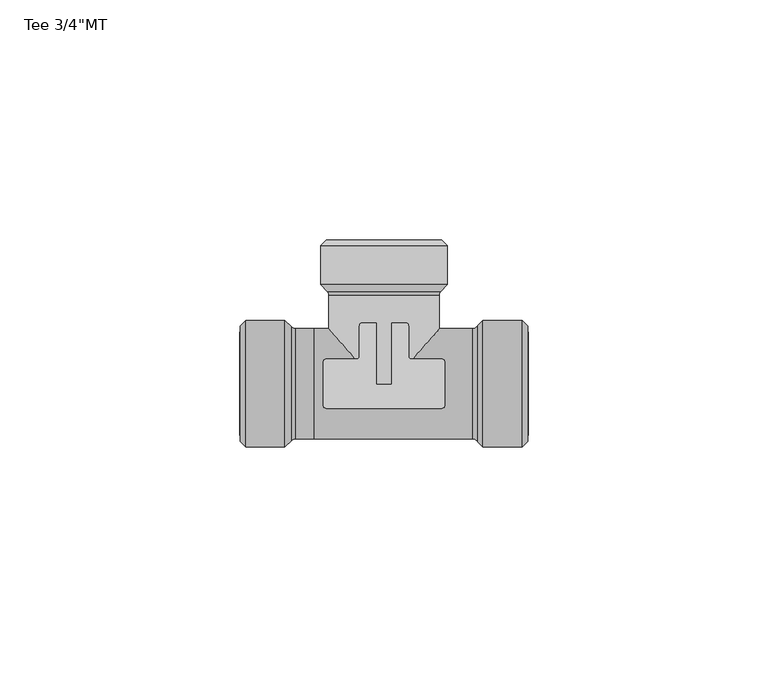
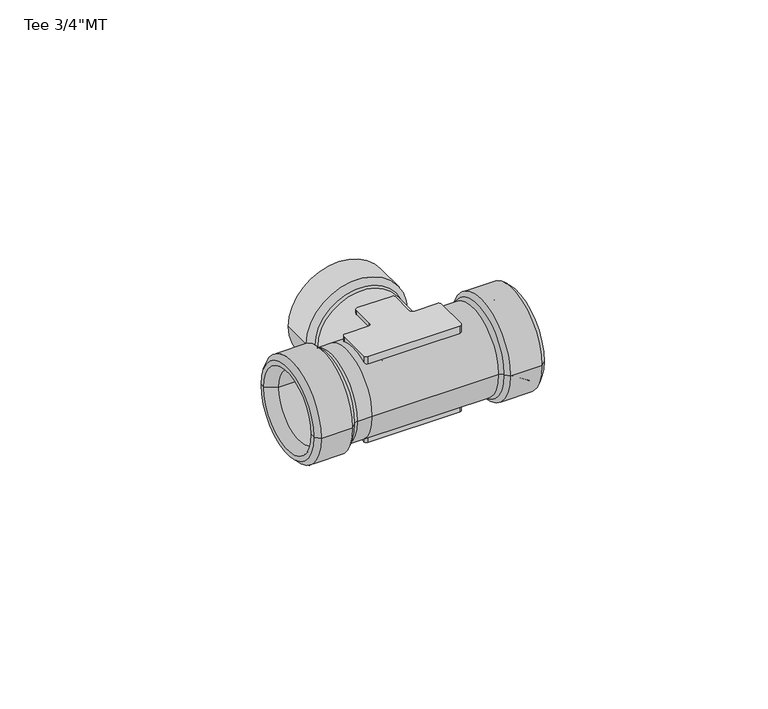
"""IFC4 building model written with IfcOpenShell, lengths in millimetres: pipe fitting geometry."""

from ifc_helpers import new_model, si_unit, point, frame, frame_2d, origin, place, context, project, spatial, polyline, circle_curve, ellipse_curve, trimmed, segment, composite_curve, outline, extrude, source, transform, mapped, element, save
from ifc_brep_helpers import plane_surface, cylinder_surface, revolved_surface, advanced_brep


def pipe_fitting_483da3ce(model_context):
    return source(origin(), model_context, "Body", "SolidModel", [
        advanced_brep(
        [(11.847933, 19.2669661, 0.0), (-11.847933, 19.2669661, 0.0), (-13.2200007, 20.6390338, 0.0), (13.2200007, 20.6390338, 0.0), (11.5000012, 18.5208241, 0.0), (-11.5000012, 18.5208241, 0.0), (11.5000012, 0.0, 0.0), (-11.5000012, 0.0, 0.0), (9.1000005, 27.1421162, 0.0), (-9.1000005, 27.1421162, 0.0), (-9.1000005, 0.0, 0.0), (9.1000005, 0.0, 0.0), (10.6841513, 30.0, 0.0), (-10.6841513, 30.0, 0.0), (12.0200013, 30.0, 0.0), (-12.0200013, 30.0, 0.0), (13.2200007, 28.8000006, 0.0), (-13.2200007, 28.8000006, 0.0)],
        [
            (0, 1, circle_curve(frame((0.0, 19.2669661, 0.0), z_axis=(0.0, 1.0, 0.0), x_axis=(-1.0, 0.0, 0.0)), 11.847933)),
            (1, 2),
            (2, 3, circle_curve(frame((0.0, 20.6390338, 0.0), z_axis=(0.0, -1.0, 0.0), x_axis=(-1.0, 0.0, 0.0)), 13.2200007)),
            (3, 0),
            (1, 0, circle_curve(frame((0.0, 19.2669661, 0.0), z_axis=(0.0, 1.0, 0.0), x_axis=(-1.0, 0.0, 0.0)), 11.847933)),
            (3, 2, circle_curve(frame((0.0, 20.6390338, 0.0), z_axis=(0.0, -1.0, 0.0), x_axis=(-1.0, 0.0, 0.0)), 13.2200007)),
            (4, 5, circle_curve(frame((0.0, 18.5208241, 0.0), z_axis=(0.0, 1.0, 0.0), x_axis=(-1.0, 0.0, 0.0)), 11.5000012)),
            (5, 1, circle_curve(frame((-12.6989712, 18.4159278, 0.0), z_axis=(0.0, 0.0, 1.0), x_axis=(1.0, 0.0, 0.0)), 1.2035499)),
            (0, 4, circle_curve(frame((12.6989712, 18.4159278, 0.0), z_axis=(0.0, 0.0, 1.0), x_axis=(-1.0, 0.0, 0.0)), 1.2035499)),
            (5, 4, circle_curve(frame((0.0, 18.5208241, 0.0), z_axis=(0.0, 1.0, 0.0), x_axis=(-1.0, 0.0, 0.0)), 11.5000012)),
            (6, 7, circle_curve(frame((0.0, 0.0, 0.0), z_axis=(0.0, 1.0, 0.0), x_axis=(-1.0, 0.0, 0.0)), 11.5000012)),
            (7, 5),
            (4, 6),
            (7, 6, circle_curve(frame((0.0, 0.0, 0.0), z_axis=(0.0, 1.0, 0.0), x_axis=(-1.0, 0.0, 0.0)), 11.5000012)),
            (8, 9, circle_curve(frame((0.0, 27.1421162, 0.0), z_axis=(0.0, 1.0, 0.0), x_axis=(-1.0, 0.0, 0.0)), 9.1000005)),
            (9, 10),
            (10, 11, circle_curve(frame((0.0, 0.0, 0.0), z_axis=(0.0, -1.0, 0.0), x_axis=(-1.0, 0.0, 0.0)), 9.1000005)),
            (11, 8),
            (9, 8, circle_curve(frame((0.0, 27.1421162, 0.0), z_axis=(0.0, 1.0, 0.0), x_axis=(-1.0, 0.0, 0.0)), 9.1000005)),
            (11, 10, circle_curve(frame((0.0, 0.0, 0.0), z_axis=(0.0, -1.0, 0.0), x_axis=(-1.0, 0.0, 0.0)), 9.1000005)),
            (12, 13, circle_curve(frame((0.0, 30.0, 0.0), z_axis=(0.0, 1.0, 0.0), x_axis=(-1.0, 0.0, 0.0)), 10.6841513)),
            (13, 9),
            (8, 12),
            (13, 12, circle_curve(frame((0.0, 30.0, 0.0), z_axis=(0.0, 1.0, 0.0), x_axis=(-1.0, 0.0, 0.0)), 10.6841513)),
            (14, 15, circle_curve(frame((0.0, 30.0, 0.0), z_axis=(0.0, 1.0, 0.0), x_axis=(-1.0, 0.0, 0.0)), 12.0200013)),
            (15, 13),
            (12, 14),
            (15, 14, circle_curve(frame((0.0, 30.0, 0.0), z_axis=(0.0, 1.0, 0.0), x_axis=(-1.0, 0.0, 0.0)), 12.0200013)),
            (16, 17, circle_curve(frame((0.0, 28.8000006, 0.0), z_axis=(0.0, 1.0, 0.0), x_axis=(-1.0, 0.0, 0.0)), 13.2200007)),
            (17, 15),
            (14, 16),
            (17, 16, circle_curve(frame((0.0, 28.8000006, 0.0), z_axis=(0.0, 1.0, 0.0), x_axis=(-1.0, 0.0, 0.0)), 13.2200007)),
            (2, 17),
            (16, 3),
            (10, 7),
            (6, 11),
        ],
        [
            revolved_surface(polyline([(-13.2200007, 20.6390338, 0.0), (-11.847933, 19.2669661, 0.0)]), (0.0, 33.9375774, 0.0), (0.0, -1.0, 0.0)),
            revolved_surface(trimmed(ellipse_curve(frame((-12.6989712, 18.4159278, 0.0), z_axis=(0.0, 0.0, -1.0), x_axis=(1.0, 0.0, 0.0)), 1.2035499, 1.2035499), [point((-11.847933, 19.2669661, 0.0))], [point((-11.5000012, 18.5208241, 0.0))], True, "CARTESIAN"), (0.0, 33.9375774, 0.0), (0.0, -1.0, 0.0)),
            cylinder_surface(frame((0.0, 33.9375774, 0.0), z_axis=(0.0, -1.0, 0.0), x_axis=(-1.0, 0.0, 0.0)), 11.5000012),
            revolved_surface(polyline([(-9.1000005, 0.0, 0.0), (-9.1000005, 27.1421162, 0.0)]), (0.0, 33.9375774, 0.0), (0.0, -1.0, 0.0)),
            revolved_surface(polyline([(-9.1000005, 27.1421162, 0.0), (-10.6841513, 30.0, 0.0)]), (0.0, 33.9375774, 0.0), (0.0, -1.0, 0.0)),
            plane_surface(frame((0.0, 30.0, 0.0), z_axis=(0.0, 1.0, 0.0), x_axis=(-1.0, 0.0, 0.0))),
            revolved_surface(polyline([(-12.0200013, 30.0, 0.0), (-13.2200007, 28.8000006, 0.0)]), (0.0, 33.9375774, 0.0), (0.0, -1.0, 0.0)),
            cylinder_surface(frame((0.0, 33.9375774, 0.0), z_axis=(0.0, -1.0, 0.0), x_axis=(-1.0, 0.0, 0.0)), 13.2200007),
            plane_surface(frame((0.0, 0.0, 0.0), z_axis=(0.0, -1.0, 0.0), x_axis=(-1.0, 0.0, 0.0))),
        ],
        [
            (0, [[1, 2, 3, 4]]),
            (0, [[5, -4, 6, -2]]),
            (1, [[7, 8, -1, 9]]),
            (1, [[10, -9, -5, -8]]),
            (2, [[11, 12, -7, 13]]),
            (2, [[14, -13, -10, -12]]),
            (3, [[15, 16, 17, 18]]),
            (3, [[19, -18, 20, -16]]),
            (4, [[21, 22, -15, 23]]),
            (4, [[24, -23, -19, -22]]),
            (5, [[25, 26, -21, 27]]),
            (5, [[28, -27, -24, -26]]),
            (6, [[29, 30, -25, 31]]),
            (6, [[32, -31, -28, -30]]),
            (7, [[-3, 33, -29, 34]]),
            (7, [[-6, -34, -32, -33]]),
            (8, [[-17, 35, -11, 36]]),
            (8, [[-20, -36, -14, -35]]),
        ],
    ),
        extrude(outline(composite_curve([segment(polyline([(-4.4586545, 12.6928765), (4.4586545, 12.6928765)]), True, "CONTINUOUS"), segment(trimmed(circle_curve(frame_2d((4.4586545, 12.0404211)), 0.6524554), [point((4.4586545, 12.6928765))], [point((5.1111099, 12.0404211))], False, "CARTESIAN"), True, "CONTINUOUS"), segment(polyline([(5.1111099, 12.0404211), (5.1111099, 6.4445347)]), True, "CONTINUOUS"), segment(trimmed(circle_curve(frame_2d((11.1699706, 6.1738136)), 6.0649058), [point((5.1111099, 6.4445347))], [point((5.1447536, 5.4811073))], True, "CARTESIAN"), True, "CONTINUOUS"), segment(trimmed(circle_curve(frame_2d((5.8321595, 5.9562127)), 0.8356148), [point((5.1447536, 5.4811073))], [point((5.8518382, 5.1208297))], True, "CARTESIAN"), True, "CONTINUOUS"), segment(polyline([(5.8518382, 5.1208297), (12.0047621, 5.1208297)]), True, "CONTINUOUS"), segment(trimmed(circle_curve(frame_2d((12.0047621, 4.4182248)), 0.7026048), [point((12.0047621, 5.1208297))], [point((12.7073669, 4.4182248))], False, "CARTESIAN"), True, "CONTINUOUS"), segment(polyline([(12.7073669, 4.4182248), (12.7073669, -4.4117644)]), True, "CONTINUOUS"), segment(trimmed(circle_curve(frame_2d((12.0080214, -4.4117644)), 0.6993455), [point((12.7073669, -4.4117644))], [point((12.0080214, -5.1111099))], False, "CARTESIAN"), True, "CONTINUOUS"), segment(polyline([(12.0080214, -5.1111099), (-12.0080214, -5.1111099)]), True, "CONTINUOUS"), segment(trimmed(circle_curve(frame_2d((-12.0080214, -4.4117644)), 0.6993455), [point((-12.0080214, -5.1111099))], [point((-12.7073669, -4.4117644))], False, "CARTESIAN"), True, "CONTINUOUS"), segment(polyline([(-12.7073669, -4.4117644), (-12.7073669, 4.4182248)]), True, "CONTINUOUS"), segment(trimmed(circle_curve(frame_2d((-12.0047621, 4.4182248)), 0.7026048), [point((-12.7073669, 4.4182248))], [point((-12.0047621, 5.1208297))], False, "CARTESIAN"), True, "CONTINUOUS"), segment(polyline([(-12.0047621, 5.1208297), (-5.8518382, 5.1208297)]), True, "CONTINUOUS"), segment(trimmed(circle_curve(frame_2d((-5.8321595, 5.9562127)), 0.8356148), [point((-5.8518382, 5.1208297))], [point((-5.1447536, 5.4811073))], True, "CARTESIAN"), True, "CONTINUOUS"), segment(trimmed(circle_curve(frame_2d((-11.1699706, 6.1738136)), 6.0649058), [point((-5.1447536, 5.4811073))], [point((-5.1111099, 6.4445347))], True, "CARTESIAN"), True, "CONTINUOUS"), segment(polyline([(-5.1111099, 6.4445347), (-5.1111099, 12.0404211)]), True, "CONTINUOUS"), segment(trimmed(circle_curve(frame_2d((-4.4586545, 12.0404211)), 0.6524554), [point((-5.1111099, 12.0404211))], [point((-4.4586545, 12.6928765))], False, "CARTESIAN"), True, "CONTINUOUS")], self_intersect=False)), frame((0.0, 0.0, -11.85), z_axis=(0.0, 0.0, 1.0), x_axis=(1.0, 0.0, 0.0)), (0.0, 0.0, 1.0), 23.7),
        advanced_brep(
        [(-27.1421162, -9.1000005, 0.0), (-27.1421162, 9.1000005, 0.0), (-30.0, 10.7500005, 0.0), (-30.0, -10.7500005, 0.0), (27.1569516, -9.1000005, 0.0), (27.1569516, 9.1000005, 0.0), (30.0, -10.7414352, 0.0), (30.0, 10.7414352, 0.0), (30.0, -12.0200014, 0.0), (30.0, 12.0200014, 0.0), (28.8, -13.2200014, 0.0), (28.8, 13.2200014, 0.0), (20.621596, -13.2200014, 0.0), (20.621596, 13.2200014, 0.0), (19.5705492, -12.1689546, 0.0), (19.5705492, 12.1689546, 0.0), (18.5, -11.5000012, 0.0), (18.5, 11.5000012, 0.0), (-14.5, -11.5000012, 0.0), (-14.5, 11.5000012, 0.0), (-18.3670365, -11.5000012, 0.0), (-18.3670365, 11.5000012, 0.0), (-19.2349171, -11.8158839, 0.0), (-19.2349171, 11.8158839, 0.0), (-20.6390338, -13.2200007, 0.0), (-20.6390338, 13.2200007, 0.0), (-28.7640957, -13.2200007, 0.0), (-28.7640957, 13.2200007, 0.0), (-30.0, -11.9840964, 0.0), (-30.0, 11.9840964, 0.0)],
        [
            (0, 1, circle_curve(frame((-27.1421162, 0.0, 0.0), z_axis=(1.0, 0.0, 0.0), x_axis=(0.0, 1.0, 0.0)), 9.1000005)),
            (1, 2),
            (2, 3, circle_curve(frame((-30.0, 0.0, 0.0), z_axis=(-1.0, 0.0, 0.0), x_axis=(0.0, 1.0, 0.0)), 10.7500005)),
            (3, 0),
            (1, 0, circle_curve(frame((-27.1421162, 0.0, 0.0), z_axis=(1.0, 0.0, 0.0), x_axis=(0.0, 1.0, 0.0)), 9.1000005)),
            (3, 2, circle_curve(frame((-30.0, 0.0, 0.0), z_axis=(-1.0, 0.0, 0.0), x_axis=(0.0, 1.0, 0.0)), 10.7500005)),
            (4, 5, circle_curve(frame((27.1569516, 0.0, 0.0), z_axis=(1.0, 0.0, 0.0), x_axis=(0.0, 1.0, 0.0)), 9.1000005)),
            (5, 1),
            (0, 4),
            (5, 4, circle_curve(frame((27.1569516, 0.0, 0.0), z_axis=(1.0, 0.0, 0.0), x_axis=(0.0, 1.0, 0.0)), 9.1000005)),
            (6, 7, circle_curve(frame((30.0, 0.0, 0.0), z_axis=(1.0, 0.0, 0.0), x_axis=(0.0, 1.0, 0.0)), 10.7414352)),
            (7, 5),
            (4, 6),
            (7, 6, circle_curve(frame((30.0, 0.0, 0.0), z_axis=(1.0, 0.0, 0.0), x_axis=(0.0, 1.0, 0.0)), 10.7414352)),
            (8, 9, circle_curve(frame((30.0, 0.0, 0.0), z_axis=(1.0, 0.0, 0.0), x_axis=(0.0, 1.0, 0.0)), 12.0200014)),
            (9, 7),
            (6, 8),
            (9, 8, circle_curve(frame((30.0, 0.0, 0.0), z_axis=(1.0, 0.0, 0.0), x_axis=(0.0, 1.0, 0.0)), 12.0200014)),
            (10, 11, circle_curve(frame((28.8, 0.0, 0.0), z_axis=(1.0, 0.0, 0.0), x_axis=(0.0, 1.0, 0.0)), 13.2200014)),
            (11, 9),
            (8, 10),
            (11, 10, circle_curve(frame((28.8, 0.0, 0.0), z_axis=(1.0, 0.0, 0.0), x_axis=(0.0, 1.0, 0.0)), 13.2200014)),
            (12, 13, circle_curve(frame((20.621596, 0.0, 0.0), z_axis=(1.0, 0.0, 0.0), x_axis=(0.0, 1.0, 0.0)), 13.2200014)),
            (13, 11),
            (10, 12),
            (13, 12, circle_curve(frame((20.621596, 0.0, 0.0), z_axis=(1.0, 0.0, 0.0), x_axis=(0.0, 1.0, 0.0)), 13.2200014)),
            (14, 15, circle_curve(frame((19.5705492, 0.0, 0.0), z_axis=(1.0, 0.0, 0.0), x_axis=(0.0, 1.0, 0.0)), 12.1689546)),
            (15, 13),
            (12, 14),
            (15, 14, circle_curve(frame((19.5705492, 0.0, 0.0), z_axis=(1.0, 0.0, 0.0), x_axis=(0.0, 1.0, 0.0)), 12.1689546)),
            (16, 17, circle_curve(frame((18.5, 0.0, 0.0), z_axis=(1.0, 0.0, 0.0), x_axis=(0.0, 1.0, 0.0)), 11.5000012)),
            (17, 15, circle_curve(frame((18.2993195, 13.0122523, 0.0), z_axis=(0.0, 0.0, 1.0), x_axis=(1.0, 0.0, 0.0)), 1.5255085)),
            (14, 16, circle_curve(frame((18.2993195, -13.0122523, 0.0), z_axis=(0.0, 0.0, 1.0), x_axis=(1.0, 0.0, 0.0)), 1.5255085)),
            (17, 16, circle_curve(frame((18.5, 0.0, 0.0), z_axis=(1.0, 0.0, 0.0), x_axis=(0.0, 1.0, 0.0)), 11.5000012)),
            (18, 19, circle_curve(frame((-14.5, 0.0, 0.0), z_axis=(1.0, 0.0, 0.0), x_axis=(0.0, 1.0, 0.0)), 11.5000012)),
            (19, 17),
            (16, 18),
            (19, 18, circle_curve(frame((-14.5, 0.0, 0.0), z_axis=(1.0, 0.0, 0.0), x_axis=(0.0, 1.0, 0.0)), 11.5000012)),
            (20, 21, circle_curve(frame((-18.3670365, 0.0, 0.0), z_axis=(1.0, 0.0, 0.0), x_axis=(0.0, 1.0, 0.0)), 11.5000012)),
            (21, 19),
            (18, 20),
            (21, 20, circle_curve(frame((-18.3670365, 0.0, 0.0), z_axis=(1.0, 0.0, 0.0), x_axis=(0.0, 1.0, 0.0)), 11.5000012)),
            (22, 23, circle_curve(frame((-19.2349171, 0.0, 0.0), z_axis=(1.0, 0.0, 0.0), x_axis=(0.0, 1.0, 0.0)), 11.8158839)),
            (23, 21, circle_curve(frame((-18.4622704, 12.5885306, 0.0), z_axis=(0.0, 0.0, 1.0), x_axis=(1.0, 0.0, 0.0)), 1.0926873)),
            (20, 22, circle_curve(frame((-18.4622704, -12.5885306, 0.0), z_axis=(0.0, 0.0, 1.0), x_axis=(1.0, 0.0, 0.0)), 1.0926873)),
            (23, 22, circle_curve(frame((-19.2349171, 0.0, 0.0), z_axis=(1.0, 0.0, 0.0), x_axis=(0.0, 1.0, 0.0)), 11.8158839)),
            (24, 25, circle_curve(frame((-20.6390338, 0.0, 0.0), z_axis=(1.0, 0.0, 0.0), x_axis=(0.0, 1.0, 0.0)), 13.2200007)),
            (25, 23),
            (22, 24),
            (25, 24, circle_curve(frame((-20.6390338, 0.0, 0.0), z_axis=(1.0, 0.0, 0.0), x_axis=(0.0, 1.0, 0.0)), 13.2200007)),
            (26, 27, circle_curve(frame((-28.7640957, 0.0, 0.0), z_axis=(1.0, 0.0, 0.0), x_axis=(0.0, 1.0, 0.0)), 13.2200007)),
            (27, 25),
            (24, 26),
            (27, 26, circle_curve(frame((-28.7640957, 0.0, 0.0), z_axis=(1.0, 0.0, 0.0), x_axis=(0.0, 1.0, 0.0)), 13.2200007)),
            (28, 29, circle_curve(frame((-30.0, 0.0, 0.0), z_axis=(1.0, 0.0, 0.0), x_axis=(0.0, 1.0, 0.0)), 11.9840964)),
            (29, 27),
            (26, 28),
            (29, 28, circle_curve(frame((-30.0, 0.0, 0.0), z_axis=(1.0, 0.0, 0.0), x_axis=(0.0, 1.0, 0.0)), 11.9840964)),
            (2, 29),
            (28, 3),
        ],
        [
            revolved_surface(polyline([(-30.0, 10.7500005, 0.0), (-27.1421162, 9.1000005, 0.0)]), (-39.1874043, 0.0, 0.0), (-1.0, 0.0, 0.0)),
            revolved_surface(polyline([(-27.1421162, 9.1000005, 0.0), (27.1569516, 9.1000005, 0.0)]), (-39.1874043, 0.0, 0.0), (-1.0, 0.0, 0.0)),
            revolved_surface(polyline([(27.1569516, 9.1000005, 0.0), (30.0, 10.7414352, 0.0)]), (-39.1874043, 0.0, 0.0), (-1.0, 0.0, 0.0)),
            plane_surface(frame((30.0, 0.0, 0.0), z_axis=(1.0, 0.0, 0.0), x_axis=(0.0, 1.0, 0.0))),
            revolved_surface(polyline([(30.0, 12.0200014, 0.0), (28.8, 13.2200014, 0.0)]), (-39.1874043, 0.0, 0.0), (-1.0, 0.0, 0.0)),
            cylinder_surface(frame((-39.1874043, 0.0, 0.0), z_axis=(-1.0, 0.0, 0.0), x_axis=(0.0, 1.0, 0.0)), 13.2200014),
            revolved_surface(polyline([(20.621596, 13.2200014, 0.0), (19.5705492, 12.1689546, 0.0)]), (-39.1874043, 0.0, 0.0), (-1.0, 0.0, 0.0)),
            revolved_surface(trimmed(ellipse_curve(frame((18.2993195, 13.0122523, 0.0), z_axis=(0.0, 0.0, -1.0), x_axis=(1.0, 0.0, 0.0)), 1.5255085, 1.5255085), [point((19.5705492, 12.1689546, 0.0))], [point((18.5, 11.5000012, 0.0))], True, "CARTESIAN"), (-39.1874043, 0.0, 0.0), (-1.0, 0.0, 0.0)),
            cylinder_surface(frame((-39.1874043, 0.0, 0.0), z_axis=(-1.0, 0.0, 0.0), x_axis=(0.0, 1.0, 0.0)), 11.5000012),
            revolved_surface(trimmed(ellipse_curve(frame((-18.4622704, 12.5885306, 0.0), z_axis=(0.0, 0.0, -1.0), x_axis=(1.0, 0.0, 0.0)), 1.0926873, 1.0926873), [point((-18.3670365, 11.5000012, 0.0))], [point((-19.2349171, 11.8158839, 0.0))], True, "CARTESIAN"), (-39.1874043, 0.0, 0.0), (-1.0, 0.0, 0.0)),
            revolved_surface(polyline([(-19.2349171, 11.8158839, 0.0), (-20.6390338, 13.2200007, 0.0)]), (-39.1874043, 0.0, 0.0), (-1.0, 0.0, 0.0)),
            cylinder_surface(frame((-39.1874043, 0.0, 0.0), z_axis=(-1.0, 0.0, 0.0), x_axis=(0.0, 1.0, 0.0)), 13.2200007),
            revolved_surface(polyline([(-28.7640957, 13.2200007, 0.0), (-30.0, 11.9840964, 0.0)]), (-39.1874043, 0.0, 0.0), (-1.0, 0.0, 0.0)),
            plane_surface(frame((-30.0, 0.0, 0.0), z_axis=(-1.0, 0.0, 0.0), x_axis=(0.0, 1.0, 0.0))),
        ],
        [
            (0, [[1, 2, 3, 4]]),
            (0, [[5, -4, 6, -2]]),
            (1, [[7, 8, -1, 9]]),
            (1, [[10, -9, -5, -8]]),
            (2, [[11, 12, -7, 13]]),
            (2, [[14, -13, -10, -12]]),
            (3, [[15, 16, -11, 17]]),
            (3, [[18, -17, -14, -16]]),
            (4, [[19, 20, -15, 21]]),
            (4, [[22, -21, -18, -20]]),
            (5, [[23, 24, -19, 25]]),
            (5, [[26, -25, -22, -24]]),
            (6, [[27, 28, -23, 29]]),
            (6, [[30, -29, -26, -28]]),
            (7, [[31, 32, -27, 33]]),
            (7, [[34, -33, -30, -32]]),
            (8, [[35, 36, -31, 37]]),
            (8, [[38, -37, -34, -36]]),
            (8, [[39, 40, -35, 41]]),
            (8, [[42, -41, -38, -40]]),
            (9, [[43, 44, -39, 45]]),
            (9, [[46, -45, -42, -44]]),
            (10, [[47, 48, -43, 49]]),
            (10, [[50, -49, -46, -48]]),
            (11, [[51, 52, -47, 53]]),
            (11, [[54, -53, -50, -52]]),
            (12, [[55, 56, -51, 57]]),
            (12, [[58, -57, -54, -56]]),
            (13, [[-3, 59, -55, 60]]),
            (13, [[-6, -60, -58, -59]]),
        ],
    ),
    ])


if __name__ == "__main__":
    model = new_model("IFC4")
    model_context = context("Model", 3, world=origin())
    ifc_project = project(units=[si_unit("LENGTHUNIT", "METRE", prefix="MILLI")], contexts=[model_context])
    site = spatial("IfcSite", under=ifc_project)
    building = spatial("IfcBuilding", under=site)
    placement = place(None, origin())
    pipe_fitting_shape = pipe_fitting_483da3ce(model_context)
    element("IfcPipeFitting", 1, ObjectType="Tee 3/4\"MT", at=placement, inside=building, context=model_context, shape_type="MappedRepresentation", body=[
        mapped(pipe_fitting_shape, transform((0.0, 0.0, 0.0), x_axis=(1.0, 0.0, 0.0), y_axis=(0.0, 1.0, 0.0), z_axis=(0.0, 0.0, 1.0))),
    ])
    save(model, "model.ifc")
